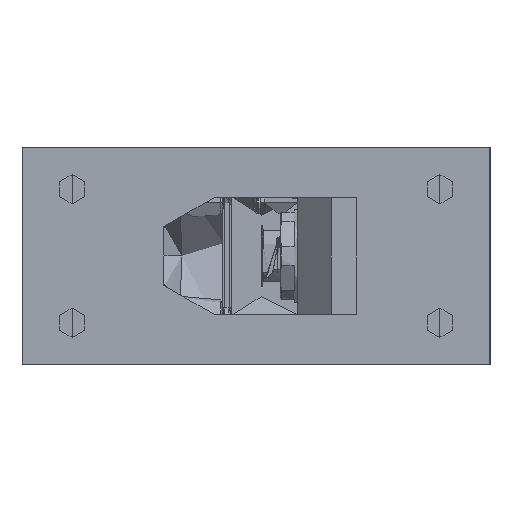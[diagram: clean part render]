
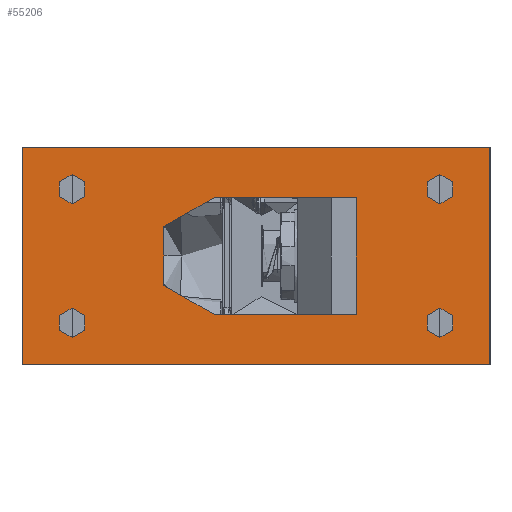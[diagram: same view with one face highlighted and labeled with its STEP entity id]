
A CAD part, left-side view. The second image highlights one B-rep face of the part: STEP entity #55206.
In plain terms, the highlighted planar face has unit normal (-1, 0, 0).
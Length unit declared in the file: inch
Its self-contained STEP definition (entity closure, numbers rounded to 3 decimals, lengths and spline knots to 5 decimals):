
#621 = VERTEX_POINT ( 'NONE', #98963 ) ;
#1466 = ORIENTED_EDGE ( 'NONE', *, *, #3502, .T. ) ;
#3502 = EDGE_CURVE ( 'NONE', #78704, #98926, #92091, .T. ) ;
#3637 = VERTEX_POINT ( 'NONE', #92188 ) ;
#5574 = DIRECTION ( 'NONE',  ( 1., 0., 0. ) ) ;
#5731 = CARTESIAN_POINT ( 'NONE',  ( -0.1, -3.5, 1.625 ) ) ;
#7617 = EDGE_LOOP ( 'NONE', ( #10315, #53633 ) ) ;
#8494 = CARTESIAN_POINT ( 'NONE',  ( -0.1, -2.75, 1. ) ) ;
#8995 = VECTOR ( 'NONE', #64473, 39.37008 ) ;
#10315 = ORIENTED_EDGE ( 'NONE', *, *, #24741, .T. ) ;
#11493 = ORIENTED_EDGE ( 'NONE', *, *, #30583, .T. ) ;
#12937 = CIRCLE ( 'NONE', #71367, 0.22 ) ;
#13354 = CARTESIAN_POINT ( 'NONE',  ( -0.1, -2.75, -1. ) ) ;
#13593 = ORIENTED_EDGE ( 'NONE', *, *, #23720, .T. ) ;
#13845 = CARTESIAN_POINT ( 'NONE',  ( -0.1, -3.5, 1.625 ) ) ;
#14127 = LINE ( 'NONE', #29559, #8995 ) ;
#14648 = DIRECTION ( 'NONE',  ( 0., 0., -1. ) ) ;
#15045 = CIRCLE ( 'NONE', #38827, 0.22 ) ;
#18498 = CARTESIAN_POINT ( 'NONE',  ( -0.1, -3.5, 1.625 ) ) ;
#18938 = VERTEX_POINT ( 'NONE', #71118 ) ;
#19177 = CARTESIAN_POINT ( 'NONE',  ( -0.1, 2.75, 1.22 ) ) ;
#19747 = ORIENTED_EDGE ( 'NONE', *, *, #102183, .T. ) ;
#20087 = AXIS2_PLACEMENT_3D ( 'NONE', #13354, #21918, #58516 ) ;
#20191 = DIRECTION ( 'NONE',  ( 0., 0., -1. ) ) ;
#21358 = FACE_BOUND ( 'NONE', #65868, .T. ) ;
#21918 = DIRECTION ( 'NONE',  ( 1., 0., 0. ) ) ;
#21963 = CIRCLE ( 'NONE', #20087, 0.22 ) ;
#22773 = DIRECTION ( 'NONE',  ( 0., 0., -1. ) ) ;
#23720 = EDGE_CURVE ( 'NONE', #621, #63885, #82777, .T. ) ;
#24741 = EDGE_CURVE ( 'NONE', #30554, #67661, #26567, .T. ) ;
#26567 = CIRCLE ( 'NONE', #28340, 0.22 ) ;
#26787 = CIRCLE ( 'NONE', #76126, 0.875 ) ;
#26914 = CIRCLE ( 'NONE', #109170, 0.22 ) ;
#27312 = CARTESIAN_POINT ( 'NONE',  ( -0.1, -2.75, 1.22 ) ) ;
#27812 = EDGE_CURVE ( 'NONE', #66149, #83588, #70861, .T. ) ;
#28340 = AXIS2_PLACEMENT_3D ( 'NONE', #101157, #32512, #22773 ) ;
#28778 = CARTESIAN_POINT ( 'NONE',  ( -0.1, 0., 0. ) ) ;
#29559 = CARTESIAN_POINT ( 'NONE',  ( -0.1, -1.5, -0.875 ) ) ;
#30501 = FACE_BOUND ( 'NONE', #51412, .T. ) ;
#30554 = VERTEX_POINT ( 'NONE', #47897 ) ;
#30583 = EDGE_CURVE ( 'NONE', #98926, #621, #14127, .T. ) ;
#31301 = DIRECTION ( 'NONE',  ( 0., 0., -1. ) ) ;
#32444 = ORIENTED_EDGE ( 'NONE', *, *, #56361, .F. ) ;
#32512 = DIRECTION ( 'NONE',  ( 1., 0., 0. ) ) ;
#35937 = CARTESIAN_POINT ( 'NONE',  ( -0.1, -1.5, 0.875 ) ) ;
#38286 = EDGE_CURVE ( 'NONE', #109404, #106691, #26914, .T. ) ;
#38827 = AXIS2_PLACEMENT_3D ( 'NONE', #73649, #5574, #31301 ) ;
#38937 = VECTOR ( 'NONE', #67784, 39.37008 ) ;
#40333 = VECTOR ( 'NONE', #48049, 39.37008 ) ;
#42447 = CARTESIAN_POINT ( 'NONE',  ( -0.1, -3.5, -1.625 ) ) ;
#44054 = CARTESIAN_POINT ( 'NONE',  ( -0.1, -2.75, -0.78 ) ) ;
#44067 = CIRCLE ( 'NONE', #53216, 0.22 ) ;
#44777 = ORIENTED_EDGE ( 'NONE', *, *, #68586, .T. ) ;
#44839 = DIRECTION ( 'NONE',  ( 0., 0., 1. ) ) ;
#45661 = LINE ( 'NONE', #42447, #75711 ) ;
#45783 = CARTESIAN_POINT ( 'NONE',  ( -0.1, -1.5, 0.875 ) ) ;
#45982 = DIRECTION ( 'NONE',  ( -1., 0., 0. ) ) ;
#47897 = CARTESIAN_POINT ( 'NONE',  ( -0.1, 2.75, 0.78 ) ) ;
#48039 = EDGE_CURVE ( 'NONE', #83588, #66149, #21963, .T. ) ;
#48049 = DIRECTION ( 'NONE',  ( 0., -1., 0. ) ) ;
#50191 = CARTESIAN_POINT ( 'NONE',  ( -0.1, 3.5, -1.625 ) ) ;
#50303 = AXIS2_PLACEMENT_3D ( 'NONE', #28778, #45982, #89456 ) ;
#51412 = EDGE_LOOP ( 'NONE', ( #70096, #105283 ) ) ;
#51788 = CARTESIAN_POINT ( 'NONE',  ( -0.1, 3.5, 1.625 ) ) ;
#52546 = DIRECTION ( 'NONE',  ( 0., 0., 1. ) ) ;
#52860 = ORIENTED_EDGE ( 'NONE', *, *, #108883, .F. ) ;
#53216 = AXIS2_PLACEMENT_3D ( 'NONE', #73021, #99355, #110160 ) ;
#53633 = ORIENTED_EDGE ( 'NONE', *, *, #111723, .T. ) ;
#55206 = ADVANCED_FACE ( 'NONE', ( #80304, #98611, #30501, #21358, #100302, #108295 ), #64259, .T. ) ;
#56361 = EDGE_CURVE ( 'NONE', #63919, #3637, #88885, .T. ) ;
#57140 = VERTEX_POINT ( 'NONE', #108358 ) ;
#58166 = DIRECTION ( 'NONE',  ( 0., 0., -1. ) ) ;
#58516 = DIRECTION ( 'NONE',  ( 0., 0., -1. ) ) ;
#63015 = EDGE_CURVE ( 'NONE', #3637, #70283, #45661, .T. ) ;
#63110 = CARTESIAN_POINT ( 'NONE',  ( -0.1, 2.75, -1. ) ) ;
#63885 = VERTEX_POINT ( 'NONE', #110970 ) ;
#63919 = VERTEX_POINT ( 'NONE', #5731 ) ;
#64259 = PLANE ( 'NONE',  #50303 ) ;
#64473 = DIRECTION ( 'NONE',  ( 0., 0., -1. ) ) ;
#64658 = CARTESIAN_POINT ( 'NONE',  ( -0.1, 0.625, 0.875 ) ) ;
#64771 = LINE ( 'NONE', #13845, #108378 ) ;
#65420 = AXIS2_PLACEMENT_3D ( 'NONE', #109644, #77013, #58166 ) ;
#65606 = DIRECTION ( 'NONE',  ( 0., 1., 0. ) ) ;
#65868 = EDGE_LOOP ( 'NONE', ( #81191, #44777 ) ) ;
#66149 = VERTEX_POINT ( 'NONE', #85025 ) ;
#66687 = CARTESIAN_POINT ( 'NONE',  ( -0.1, 0.625, 0. ) ) ;
#66766 = VECTOR ( 'NONE', #20191, 39.37008 ) ;
#66909 = CIRCLE ( 'NONE', #90705, 0.22 ) ;
#67257 = DIRECTION ( 'NONE',  ( 1., 0., 0. ) ) ;
#67661 = VERTEX_POINT ( 'NONE', #19177 ) ;
#67784 = DIRECTION ( 'NONE',  ( 0., 0., 1. ) ) ;
#67835 = ORIENTED_EDGE ( 'NONE', *, *, #82173, .F. ) ;
#68586 = EDGE_CURVE ( 'NONE', #88124, #57140, #66909, .T. ) ;
#69491 = CARTESIAN_POINT ( 'NONE',  ( -0.1, 2.75, -0.78 ) ) ;
#70096 = ORIENTED_EDGE ( 'NONE', *, *, #27812, .T. ) ;
#70283 = VERTEX_POINT ( 'NONE', #50191 ) ;
#70861 = CIRCLE ( 'NONE', #65420, 0.22 ) ;
#71118 = CARTESIAN_POINT ( 'NONE',  ( -0.1, 3.5, 1.625 ) ) ;
#71367 = AXIS2_PLACEMENT_3D ( 'NONE', #8494, #76574, #52546 ) ;
#73021 = CARTESIAN_POINT ( 'NONE',  ( -0.1, 2.75, -1. ) ) ;
#73649 = CARTESIAN_POINT ( 'NONE',  ( -0.1, 2.75, 1. ) ) ;
#74257 = EDGE_CURVE ( 'NONE', #63885, #78704, #26787, .T. ) ;
#75666 = CARTESIAN_POINT ( 'NONE',  ( -0.1, -2.75, 1. ) ) ;
#75711 = VECTOR ( 'NONE', #86470, 39.37008 ) ;
#76126 = AXIS2_PLACEMENT_3D ( 'NONE', #66687, #67257, #14648 ) ;
#76574 = DIRECTION ( 'NONE',  ( 1., 0., 0. ) ) ;
#77013 = DIRECTION ( 'NONE',  ( 1., 0., 0. ) ) ;
#77344 = EDGE_LOOP ( 'NONE', ( #13593, #79247, #1466, #11493 ) ) ;
#78053 = ORIENTED_EDGE ( 'NONE', *, *, #38286, .T. ) ;
#78704 = VERTEX_POINT ( 'NONE', #64658 ) ;
#79247 = ORIENTED_EDGE ( 'NONE', *, *, #74257, .T. ) ;
#80304 = FACE_BOUND ( 'NONE', #77344, .T. ) ;
#81191 = ORIENTED_EDGE ( 'NONE', *, *, #103667, .T. ) ;
#81305 = VECTOR ( 'NONE', #65606, 39.37008 ) ;
#81952 = DIRECTION ( 'NONE',  ( 0., -1., 0. ) ) ;
#82173 = EDGE_CURVE ( 'NONE', #70283, #18938, #112968, .T. ) ;
#82777 = LINE ( 'NONE', #109090, #81305 ) ;
#83588 = VERTEX_POINT ( 'NONE', #44054 ) ;
#83722 = DIRECTION ( 'NONE',  ( 1., 0., 0. ) ) ;
#83978 = CARTESIAN_POINT ( 'NONE',  ( -0.1, -2.75, 0.78 ) ) ;
#85025 = CARTESIAN_POINT ( 'NONE',  ( -0.1, -2.75, -1.22 ) ) ;
#86470 = DIRECTION ( 'NONE',  ( 0., 1., 0. ) ) ;
#88124 = VERTEX_POINT ( 'NONE', #69491 ) ;
#88877 = DIRECTION ( 'NONE',  ( 1., 0., 0. ) ) ;
#88885 = LINE ( 'NONE', #18498, #66766 ) ;
#89326 = EDGE_LOOP ( 'NONE', ( #19747, #78053 ) ) ;
#89456 = DIRECTION ( 'NONE',  ( 0., 0., 1. ) ) ;
#90705 = AXIS2_PLACEMENT_3D ( 'NONE', #63110, #88877, #44839 ) ;
#92091 = LINE ( 'NONE', #45783, #40333 ) ;
#92188 = CARTESIAN_POINT ( 'NONE',  ( -0.1, -3.5, -1.625 ) ) ;
#98611 = FACE_BOUND ( 'NONE', #89326, .T. ) ;
#98926 = VERTEX_POINT ( 'NONE', #35937 ) ;
#98963 = CARTESIAN_POINT ( 'NONE',  ( -0.1, -1.5, -0.875 ) ) ;
#99191 = DIRECTION ( 'NONE',  ( 0., 0., 1. ) ) ;
#99355 = DIRECTION ( 'NONE',  ( 1., 0., 0. ) ) ;
#100302 = FACE_BOUND ( 'NONE', #7617, .T. ) ;
#101157 = CARTESIAN_POINT ( 'NONE',  ( -0.1, 2.75, 1. ) ) ;
#101161 = ORIENTED_EDGE ( 'NONE', *, *, #63015, .F. ) ;
#102183 = EDGE_CURVE ( 'NONE', #106691, #109404, #12937, .T. ) ;
#103667 = EDGE_CURVE ( 'NONE', #57140, #88124, #44067, .T. ) ;
#105283 = ORIENTED_EDGE ( 'NONE', *, *, #48039, .T. ) ;
#106691 = VERTEX_POINT ( 'NONE', #83978 ) ;
#108295 = FACE_OUTER_BOUND ( 'NONE', #110628, .T. ) ;
#108358 = CARTESIAN_POINT ( 'NONE',  ( -0.1, 2.75, -1.22 ) ) ;
#108378 = VECTOR ( 'NONE', #81952, 39.37008 ) ;
#108883 = EDGE_CURVE ( 'NONE', #18938, #63919, #64771, .T. ) ;
#109090 = CARTESIAN_POINT ( 'NONE',  ( -0.1, -1.5, -0.875 ) ) ;
#109170 = AXIS2_PLACEMENT_3D ( 'NONE', #75666, #83722, #99191 ) ;
#109404 = VERTEX_POINT ( 'NONE', #27312 ) ;
#109644 = CARTESIAN_POINT ( 'NONE',  ( -0.1, -2.75, -1. ) ) ;
#110160 = DIRECTION ( 'NONE',  ( 0., 0., 1. ) ) ;
#110628 = EDGE_LOOP ( 'NONE', ( #101161, #32444, #52860, #67835 ) ) ;
#110970 = CARTESIAN_POINT ( 'NONE',  ( -0.1, 0.625, -0.875 ) ) ;
#111723 = EDGE_CURVE ( 'NONE', #67661, #30554, #15045, .T. ) ;
#112968 = LINE ( 'NONE', #51788, #38937 ) ;
